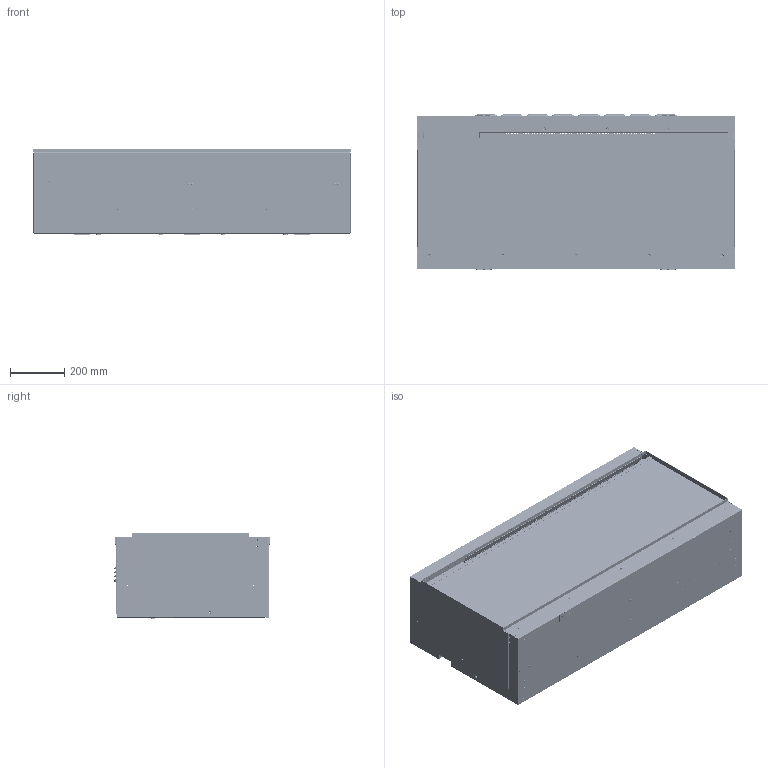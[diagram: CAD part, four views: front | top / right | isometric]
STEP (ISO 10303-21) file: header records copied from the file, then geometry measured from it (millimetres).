
FILE_DESCRIPTION (( 'STEP AP203' ), '1' );
FILE_NAME ('EF622A-00.STEP', '2025-10-09T01:12:22', ( 'asus' ), ( 'Microsoft' ), 'SwSTEP 2.0', 'SolidWorks 2010', '' );
FILE_SCHEMA (( 'CONFIG_CONTROL_DESIGN' ));
Products named in the file (63): EF622A.11-00; EF622A.11-01; EF622A.11-02; EF622A.11-03; EF622A.13-00; EF622A.13-01; EF622A.13-02; AP.JGJ.0464-00 M4×7; EF622A.14-00; EF622A.14-01; EF622A.14-02; EF622A.00-11; EF343A.00-18_蚾饜; EF622A.00-19; EF172C.00-38_默认SM-FLAT-PATTERN; EF622A.16-00; AP.JGJ.0600-00 M3×6_钢,镀蓝锌; EF622A.16-01; EF622A.00-150_默认SM-FLAT-PATTERN; EF622A.07-03; EF622A-00; EF622A.00-03; EF622A.00-04; EF622A.00-05; EF622A.00-06_默认SM-FLAT-PATTERN; EF622A.00-10_默认SM-FLAT-PATTERN; EF622A.00-12; EF622A.00-13; EF622A.00-14; EF622A.00-22; EF622A.00-23; EF622A.01-00; EF622A.00-01; EF622A.01-01; EF548A.03-03; EF213A.03-04; AP.JGJ.0111-00 3.2×9_钢,镀黑锌; EF622A.02-00; EF622A.02-01; EF622A.03-00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
Assembly tree (111 placements, depth 3):
  EF622A-00
    EF622A.00-11  x2
    EF622A.00-14
    EF622A.14-00
      EF622A.14-02  x6
      EF622A.14-01
    EF172C.00-38_默认SM-FLAT-PATTERN
    EF622A.00-04
    EF622A.10-00
      EF622A.10-01
      EF622A.10-02
    EF343A.00-18_蚾饜  x4
    EF622A.00-13
    EF622A.07.01-00
      EF622A.07.01-01
      EF622A.07.01-02  x2
      AP.JGJ.0470-00 M3×16_钢,镀蓝锌  x2
    EF622A.00-19  x2
    EF622A.00-150_默认SM-FLAT-PATTERN  x2
    EF622A.00-03
    EF622A.02-00
      AP.JGJ.0464-00 M4×7  x4
      EF622A.02-03
      EF622A.02-01
      EF622A.02-02
    EF622A.00-12
    EF622A.13-00
      AP.JGJ.0464-00 M4×7  x8
      EF622A.13-01
      EF622A.13-02
    EF622A.00-06_默认SM-FLAT-PATTERN
    EF622A.07-03
    EF622A.11-00
      EF622A.11-02
      EF622A.11-03
      EF622A.11-01
    EF622A.00-05
    EF622A.03-00
      EF622A.02-02
      EF622A.02-03
      EF600A.00-17
      EF622A.03-01
    EF622A.00-10_默认SM-FLAT-PATTERN
    EF622A.16-00  x2
      EF622A.16-01
      AP.JGJ.0600-00 M3×6_钢,镀蓝锌
    EF622A.00-23
    EF622A.01-00
      AP.JGJ.0111-00 3.2×9_钢,镀黑锌  x11
      EF548A.03-03  x2
      EF213A.03-04
      EF622A.01-01
      EF622A.00-01
    EF622A.00-22
    EF622A.06.01-00
      EF622A.06.01-03   x4
      EF622A.06.01-04
      EF622A.06.01-01
      EF622A.06.01-02  x3
    EF622A.00-01
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Bounding box: 1172.4 x 573 x 317.4 mm (x, y, z)
Volume: 9310365.2 mm3; surface area: 9687980.5 mm2
Topology: 102 solids, 102 shells, 8807 faces, 22836 edges, 14174 vertices
Faces by surface type: plane 4585, cylinder 2954, torus 726, cone 322, sphere 128, bspline 92
Entity records: 229912 total; most frequent: CARTESIAN_POINT 41505, DIRECTION 38381, ORIENTED_EDGE 37000, EDGE_CURVE 18500, AXIS2_PLACEMENT_3D 13418, LINE 11545, VECTOR 11545, VERTEX_POINT 11518
